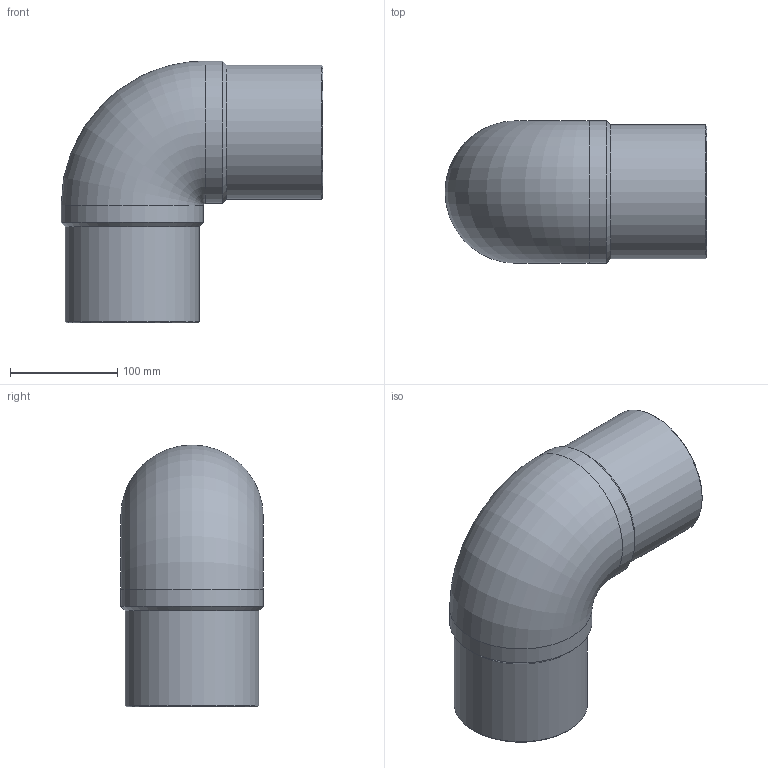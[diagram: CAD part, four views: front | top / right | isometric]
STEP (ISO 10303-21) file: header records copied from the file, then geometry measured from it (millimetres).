
FILE_DESCRIPTION(/* description */ ('Unknown'),/* implementation_level */ '2;1');
FILE_NAME(/* name */ 'G9P125H',/* time_stamp */ '2021-11-15T16:41:18+01:00',/* author */ ('Unknown'),/* organization */ ('Unknown'),/* preprocessor_version */ 'ST-DEVELOPER v16.7',/* originating_system */ 'Solid Edge',/* authorisation */ 'Unknown');
FILE_SCHEMA (('AUTOMOTIVE_DESIGN {1 0 10303 214 3 1 1}'));
Length unit declared in the file: millimetre
Products named in the file (1): G9P125H
Bounding box: 244.5 x 133 x 244.5 mm (x, y, z)
Volume: 2147381.6 mm3; surface area: 238027.1 mm2
Topology: 1 solids, 1 shells, 14 faces, 34 edges, 22 vertices
Faces by surface type: cylinder 6, cone 4, plane 2, torus 2
Full cylindrical faces by diameter (mm): 90.8 x2, 125 x2, 133 x2
Entity records: 376 total; most frequent: CARTESIAN_POINT 76, DIRECTION 60, ORIENTED_EDGE 38, AXIS2_PLACEMENT_3D 30, EDGE_LOOP 27, FACE_BOUND 27, EDGE_CURVE 19, VERTEX_POINT 18
